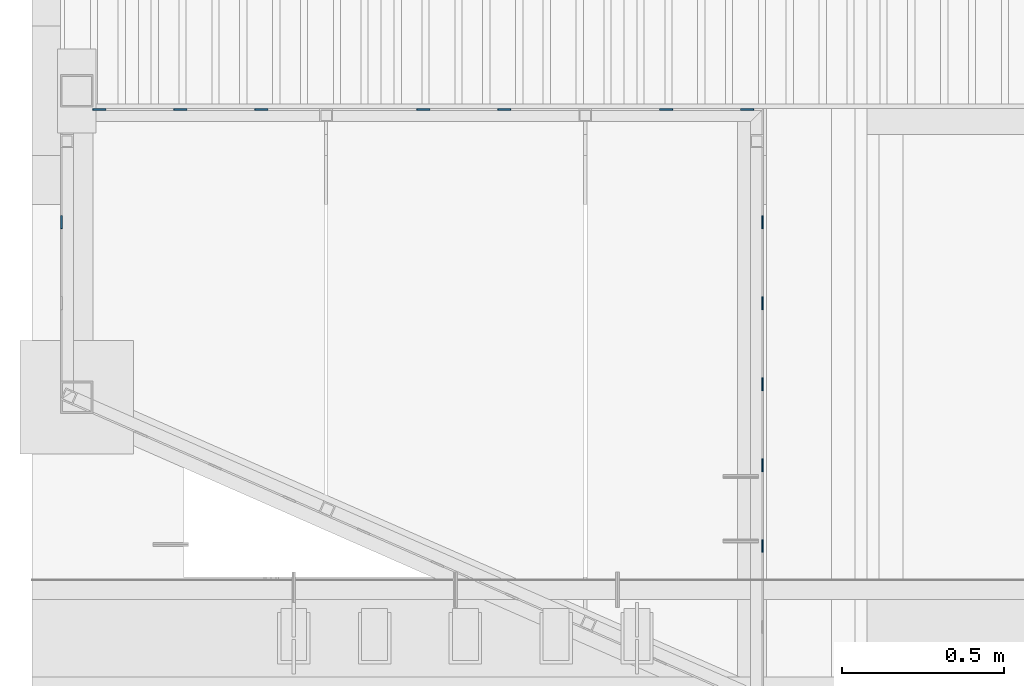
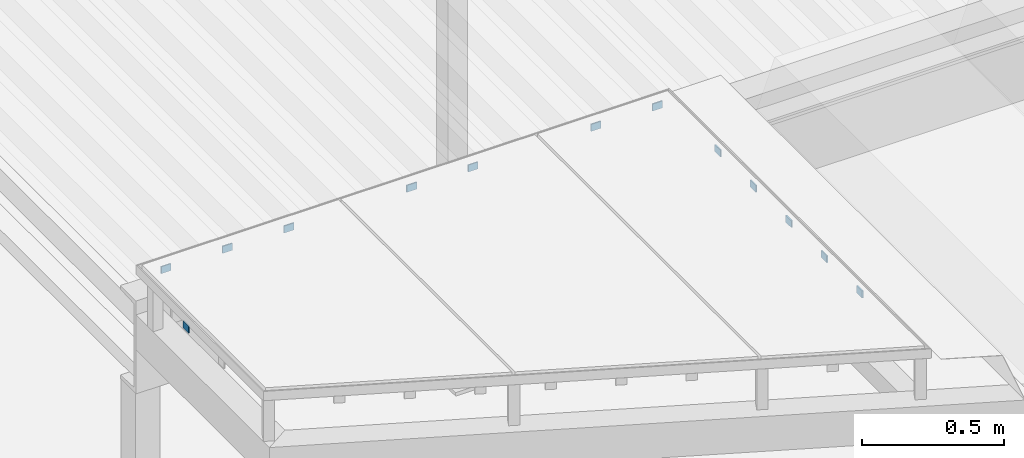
# One storey, part 37 of 98: 13 beams.
"""IFC2X3 building model written with IfcOpenShell, lengths in millimetres."""

from ifc_helpers import new_model, entity, si_unit, converted_unit, derived_unit, direction, frame, origin_with_axes, place, context, subcontext, project, spatial, faceted_brep, material, type_object, element, save


model = new_model("IFC2X3")

# Units and contexts
model_context = context("Model", 3, precision=0.01, world=frame((0.0, 4.29681676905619e-09, 0.0)), true_north=direction((4.01073788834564e-13, 1.0)))
plan_context = context("Plan", 3, precision=0.01, world=frame((0.0, 4.29681676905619e-09, 0.0)), true_north=direction((4.01073788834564e-13, 1.0)))
body_context = subcontext(model_context, "Body", "Model", "MODEL_VIEW")
ifc_project = project(units=[converted_unit("PLANEANGLEUNIT", "DEGREE", entity("IfcPositiveLengthMeasure", 0.0174532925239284), si_unit("PLANEANGLEUNIT", "RADIAN"), dimensions=[0, 0, 0, 0, 0, 0, 0]), si_unit("AREAUNIT", "SQUARE_METRE"), si_unit("LENGTHUNIT", "METRE", prefix="MILLI"), si_unit("MASSUNIT", "GRAM", prefix="KILO"), si_unit("POWERUNIT", "WATT"), si_unit("PRESSUREUNIT", "PASCAL"), si_unit("FORCEUNIT", "NEWTON", prefix="KILO"), si_unit("ELECTRICCURRENTUNIT", "AMPERE"), si_unit("THERMODYNAMICTEMPERATUREUNIT", "DEGREE_CELSIUS"), si_unit("TIMEUNIT", "SECOND"), si_unit("VOLUMEUNIT", "CUBIC_METRE"), derived_unit("LINEARVELOCITYUNIT", [(si_unit("LENGTHUNIT", "METRE"), 1), (si_unit("TIMEUNIT", "SECOND"), -1)]), derived_unit("VOLUMETRICFLOWRATEUNIT", [(si_unit("VOLUMEUNIT", "CUBIC_METRE"), 1), (si_unit("TIMEUNIT", "SECOND"), -1)]), derived_unit("THERMALTRANSMITTANCEUNIT", [(si_unit("POWERUNIT", "WATT"), 1), (si_unit("THERMODYNAMICTEMPERATUREUNIT", "KELVIN"), -1), (si_unit("AREAUNIT", "SQUARE_METRE"), -1)])], contexts=[model_context, plan_context])

# Site, building, storey
site_placement = place(None, frame((0.0, -4.29681676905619e-09, 0.0), z_axis=(0.0, 0.0, 1.0), x_axis=(1.0, 0.0, 0.0)))
site = spatial("IfcSite", under=ifc_project, at=site_placement, Name="Gardermoen", CompositionType="ELEMENT")
building_placement = place(site_placement, frame((0.0, 4.29681676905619e-09, 0.0), z_axis=(0.0, 0.0, 1.0), x_axis=(1.0, 0.0, 0.0)))
building = spatial("IfcBuilding", under=site, at=building_placement, Name="TS", CompositionType="ELEMENT")
storey_placement = place(building_placement, origin_with_axes())
storey = spatial("IfcBuildingStorey", under=building, at=storey_placement, Name="D", CompositionType="ELEMENT", Elevation=0.0)

# Beams
ifc_material = material(Name="STEEL/S355")
beam_type = type_object("IfcBeamType", Name="PL30*5", PredefinedType="NOTDEFINED")
for number, where, z_axis, x_axis in (
    (1, (514089.998435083, 414442.481078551, 207260.0), (0.0, 0.0, 1.0), (-0.999999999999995, -9.99999902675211e-08, 0.0)),
    (2, (514339.998435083, 414442.481078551, 207260.0), (0.0, 0.0, 1.0), (-0.999999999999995, -9.99999902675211e-08, 0.0)),
    (3, (514589.998435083, 414442.481078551, 207260.0), (0.0, 0.0, 1.0), (-0.999999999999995, -9.99999902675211e-08, 0.0)),
    (4, (515089.998435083, 414442.481078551, 207260.0), (0.0, 0.0, 1.0), (-0.999999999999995, -9.99999902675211e-08, 0.0)),
    (5, (515339.998435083, 414442.481078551, 207260.0), (0.0, 0.0, 1.0), (-0.999999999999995, -9.99999902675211e-08, 0.0)),
    (6, (516089.998435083, 414442.481078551, 207260.0), (0.0, 0.0, 1.0), (-0.999999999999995, -9.99999902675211e-08, 0.0)),
    (7, (515839.998435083, 414442.481078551, 207260.0), (0.0, 0.0, 1.0), (-0.999999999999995, -9.99999902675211e-08, 0.0)),
    (8, (516117.498418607, 413114.981078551, 207259.810914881), (0.0, 0.0, 1.0), (0.0, -1.0, 0.0)),
    (9, (516117.498418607, 413364.981078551, 207259.810914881), (0.0, 0.0, 1.0), (0.0, -1.0, 0.0)),
    (10, (516117.498418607, 413614.981078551, 207259.810914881), (0.0, 0.0, 1.0), (0.0, -1.0, 0.0)),
    (11, (516117.498418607, 413864.981078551, 207259.810914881), (0.0, 0.0, 1.0), (0.0, -1.0, 0.0)),
    (12, (516117.498418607, 414114.981078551, 207259.810914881), (0.0, 0.0, 1.0), (0.0, -1.0, 0.0)),
    (13, (513952.498435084, 414114.981078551, 207260.0), (0.0, 0.0, 1.0), (0.0, -1.0, 0.0)),
):
    element("IfcBeam", number, at=place(storey_placement, frame(where, z_axis=z_axis, x_axis=x_axis)), inside=storey, type_object=beam_type, material=ifc_material, Name="STÅLBJELKE", ObjectType="PL30*5", context=body_context, shape_type="Brep", body=[
        faceted_brep([(0.0, 2.5, -15.0), (0.0, 2.5, 15.0), (40.0, 2.5, 15.0), (40.0, 2.5, -15.0), (0.0, -2.5, 15.0), (40.0, -2.5, 15.0), (0.0, -2.5, -15.0), (40.0, -2.5, -15.0)], [[[0, 1, 2, 3]], [[1, 4, 5, 2]], [[4, 6, 7, 5]], [[6, 0, 3, 7]], [[5, 7, 3, 2]], [[6, 4, 1, 0]]]),
    ])

save(model, "model.ifc")
